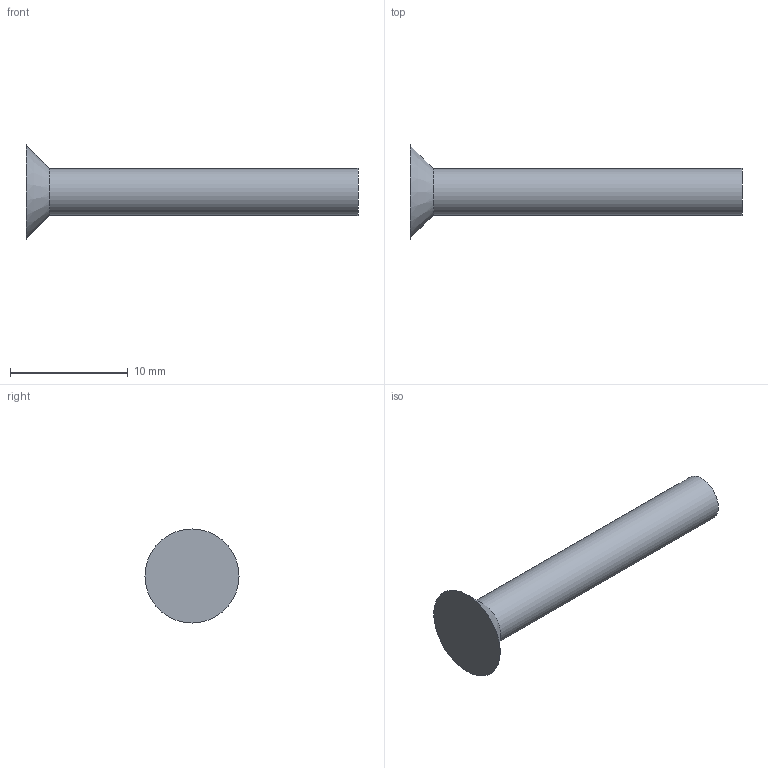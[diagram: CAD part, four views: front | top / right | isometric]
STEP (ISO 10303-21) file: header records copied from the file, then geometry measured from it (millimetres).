
FILE_DESCRIPTION(('Open CASCADE Model'),'2;1');
FILE_NAME('Open CASCADE Shape Model','2026-10-18T02:27:58',('Author'),( 'Open CASCADE'),'Open CASCADE STEP processor 7.9','Open CASCADE 7.9' ,'Unknown');
FILE_SCHEMA(('AUTOMOTIVE_DESIGN { 1 0 10303 214 1 1 1 1 }'));
Length unit declared in the file: millimetre
Products named in the file (1): Open CASCADE STEP translator 7.9 18
Bounding box: 28.25 x 8 x 8 mm (x, y, z)
Volume: 388.5 mm3; surface area: 446 mm2
Topology: 1 solids, 1 shells, 4 faces, 6 edges, 4 vertices
Faces by surface type: plane 2, cylinder 1, cone 1
Full cylindrical faces by diameter (mm): 4 x1
Entity records: 182 total; most frequent: DIRECTION 32, CARTESIAN_POINT 27, ORIENTED_EDGE 12, PCURVE 12, DEFINITIONAL_REPRESENTATION 12, LINE 12, VECTOR 12, AXIS2_PLACEMENT_3D 9
